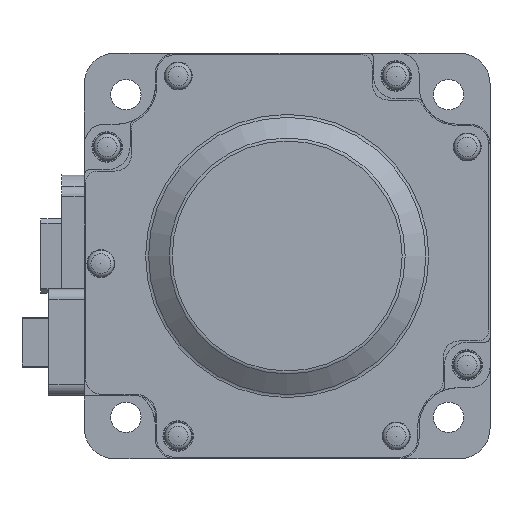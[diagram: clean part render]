
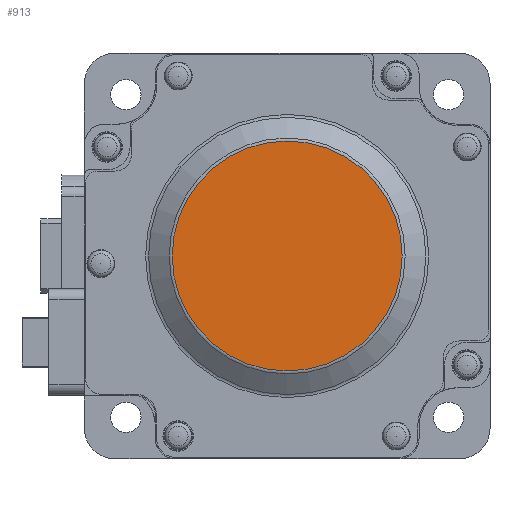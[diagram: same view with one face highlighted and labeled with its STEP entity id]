
A CAD part, left-side view. The second image highlights one B-rep face of the part: STEP entity #913.
In plain terms, the highlighted planar face has unit normal (-1, 0, 0).
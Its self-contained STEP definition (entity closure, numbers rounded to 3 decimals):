
#913 = ADVANCED_FACE( '', ( #2533 ), #2534, .F. );
#2533 = FACE_OUTER_BOUND( '', #5038, .T. );
#2534 = PLANE( '', #5039 );
#5038 = EDGE_LOOP( '', ( #7972 ) );
#5039 = AXIS2_PLACEMENT_3D( '', #7973, #7974, #7975 );
#7972 = ORIENTED_EDGE( '', *, *, #14624, .F. );
#7973 = CARTESIAN_POINT( '', ( -127.2, 34., 34. ) );
#7974 = DIRECTION( '', ( 1., 0., 0. ) );
#7975 = DIRECTION( '', ( 0., 0., -1. ) );
#14624 = EDGE_CURVE( '', #17587, #17587, #17588, .T. );
#17587 = VERTEX_POINT( '', #21749 );
#17588 = CIRCLE( '', #21750, 22.678 );
#21749 = CARTESIAN_POINT( '', ( -127.2, 0., -22.678 ) );
#21750 = AXIS2_PLACEMENT_3D( '', #26701, #26702, #26703 );
#26701 = CARTESIAN_POINT( '', ( -127.2, 0., 0. ) );
#26702 = DIRECTION( '', ( 1., 0., 0. ) );
#26703 = DIRECTION( '', ( 0., 0., -1. ) );
